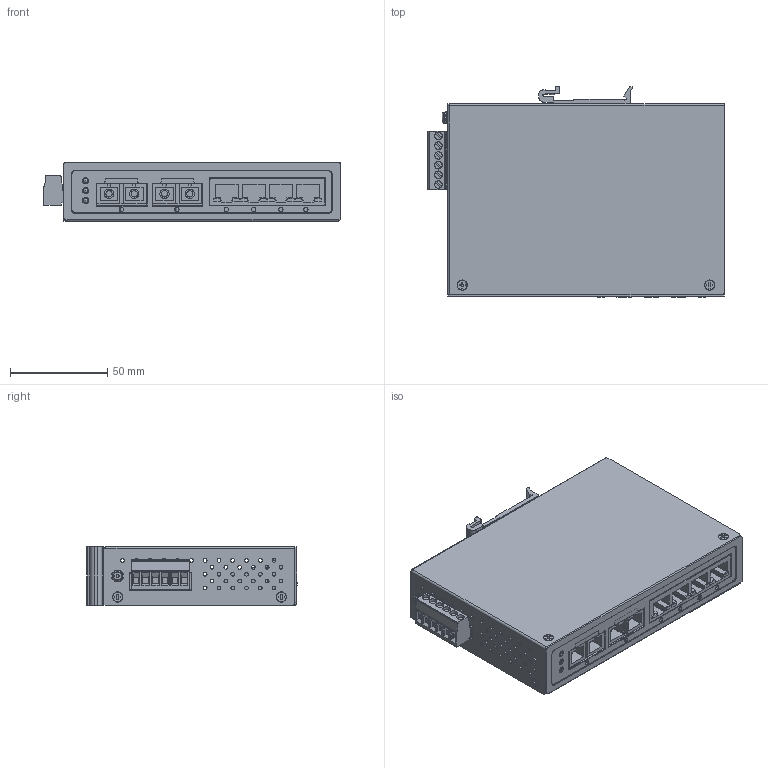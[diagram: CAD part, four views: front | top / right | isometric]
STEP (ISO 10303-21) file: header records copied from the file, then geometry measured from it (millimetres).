
FILE_DESCRIPTION( ( '' ), ' ' );
FILE_NAME( '/vol/tmp/translate-7505973260071778729/5e7a9b570d6b021464ffb4f1.step', '2020-03-24T23:44:24', ( '' ), ( '' ), ' ', ' ', ' ' );
FILE_SCHEMA( ( 'AUTOMOTIVE_DESIGN { 1 0 10303 214 1 1 1 1 }' ) );
Length unit declared in the file: metre
Products named in the file (159): Header <1>; PRT0006; Header Assy <1>; Front Housing <1>; PRT0002; PRT0001; PRT0003; PCB Components <1>; PRT0004; PRT0007; PRT0005; Housing Assy <1>; PRT0009; PRT0012; PRT0011; PRT0013; PRT0008; PRT0010; Assem1
Assembly tree (171 placements, depth 6):
  Assem1
    Housing Assy <1>
      PRT0009  x10
      PRT0012
      PRT0012
      PRT0012
      PRT0012
      PRT0012
      PRT0012
      PRT0012
      PRT0012
      PRT0012
      PRT0012
      PRT0012
      PRT0012
      PRT0012
      PRT0011
      PRT0013
      PRT0008
      PRT0008
      PRT0008
      PRT0008
      PRT0008
      PRT0008
      PRT0008
      PRT0008
      PRT0008
      PRT0008
      PRT0008
      PRT0008
      PRT0008
      PRT0008
      PRT0008
      PRT0008
      PRT0008
      PRT0008
      PRT0008
      PRT0008
      PRT0010
      Front Housing <1>
        PRT0002  x4
        PRT0001
        PRT0001
        PRT0001
        PRT0001
        PRT0001
        PRT0001
        PRT0001
        PRT0001
        PRT0001
        PRT0001
        PRT0001
        PRT0001
        PRT0001
        PRT0001
        PRT0001
        PRT0001
        PRT0001
        PRT0001
        PRT0001
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Bounding box: 152.14 x 107.94 x 30 mm (x, y, z)
Volume: 34344.2 mm3; surface area: 123081.7 mm2
Topology: 22 solids, 758 shells, 1970 faces, 6885 edges, 5565 vertices
Faces by surface type: plane 1188, cylinder 616, torus 77, cone 52, sphere 33, bspline 2, revolution 2
Full cylindrical faces by diameter (mm): 0.609 x1, 1.3 x22, 1.4 x6, 1.5 x1, 1.9 x111, 2 x15, 2.2 x6, 2.3 x9, 2.449 x4, 2.459 x4, 2.5 x2, 2.8 x10, 2.9 x8, 3 x13, 3.2 x7, 3.5 x7, 3.78 x4, 3.783 x6, 3.99 x8, 4 x28, 4.2 x13, 4.8 x4, 5 x10, 5.5 x1
Entity records: 74853 total; most frequent: CARTESIAN_POINT 15835, DIRECTION 10832, ORIENTED_EDGE 7648, EDGE_CURVE 5532, VERTEX_POINT 4814, AXIS2_PLACEMENT_3D 3638, LINE 3554, VECTOR 3554
